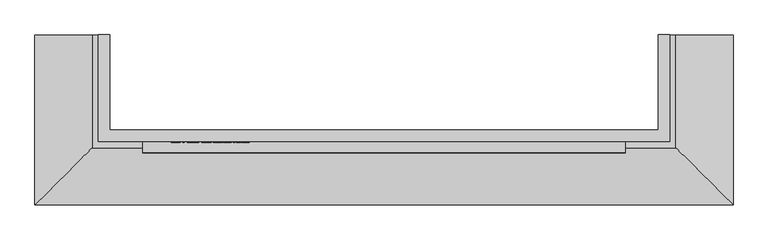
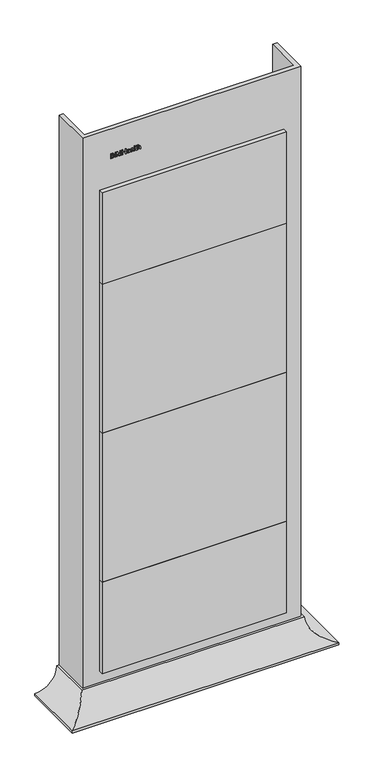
"""IFC4 building model written with IfcOpenShell, lengths in millimetres: furniture geometry, BIMHealth-Washstation-LOD2A-v2 : BIMHealth-Washstation-LOD2A-v1 2."""

from ifc_helpers import new_model, si_unit, frame, origin, origin_with_axes, place, context, project, spatial, polyline, circle_curve, ellipse_curve, outline, extrude, source, transform, mapped, element, save
from ifc_brep_helpers import plane_surface, revolved_surface, advanced_brep


def furniture_eb258ce7(model_context):
    return source(origin(), model_context, "Body", "SolidModel", [
        advanced_brep(
        [(-900.0, 0.0, 100.0), (-900.0, 0.0, 0.0), (-1000.0, 0.0, 0.0), (-1000.0, 0.0, 10.0), (-910.0, 0.0, 100.0), (-900.0, -168.0, 100.0), (-900.0, -168.0, 0.0), (0.0, -168.0, 0.0), (0.0, 0.0, 0.0), (100.0, 0.0, 0.0), (100.0, -268.0, 0.0), (-1000.0, -268.0, 0.0), (-1000.0, -268.0, 10.0), (-910.0, -178.0, 100.0), (10.0, -178.0, 100.0), (10.0, 0.0, 100.0), (0.0, 0.0, 100.0), (0.0, -168.0, 100.0), (100.0, -268.0, 10.0), (100.0, 0.0, 10.0)],
        [
            (0, 1),
            (1, 2),
            (2, 3),
            (3, 4, circle_curve(frame((-1000.0, 0.0, 100.0), z_axis=(0.0, -1.0, 0.0), x_axis=(-1.0, 0.0, 0.0)), 90.0)),
            (4, 0),
            (0, 5),
            (5, 6),
            (6, 1),
            (6, 7),
            (7, 8),
            (8, 9),
            (9, 10),
            (10, 11),
            (11, 2),
            (11, 12),
            (12, 3),
            (12, 13, ellipse_curve(frame((-1000.0, -268.0, 100.0), z_axis=(0.7071067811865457, -0.7071067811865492, 0.0), x_axis=(-0.7071067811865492, -0.7071067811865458, 0.0)), 127.2792206, 90.0)),
            (13, 4),
            (13, 14),
            (14, 15),
            (15, 16),
            (16, 17),
            (17, 5),
            (17, 7),
            (10, 18),
            (18, 12),
            (18, 14, ellipse_curve(frame((100.0, -268.0, 100.0), z_axis=(0.7071067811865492, 0.7071067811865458, 0.0), x_axis=(0.7071067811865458, -0.7071067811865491, 0.0)), 127.2792206, 90.0)),
            (15, 19, circle_curve(frame((100.0, 0.0, 100.0), z_axis=(0.0, -1.0, 0.0), x_axis=(1.0, 0.0, 0.0)), 90.0)),
            (19, 9),
            (8, 16),
            (19, 18),
        ],
        [
            plane_surface(frame((-900.0, 0.0, 0.0), z_axis=(0.0, 1.0, 0.0), x_axis=(0.0, 0.0, 1.0))),
            plane_surface(frame((-900.0, 0.0, 100.0), z_axis=(1.0, 0.0, 0.0), x_axis=(0.0, -1.0, 0.0))),
            plane_surface(frame((-900.0, 0.0, 0.0), z_axis=(0.0, 0.0, -1.0), x_axis=(0.0, -1.0, 0.0))),
            plane_surface(frame((-1000.0, 0.0, 0.0), z_axis=(-1.0, 0.0, 0.0), x_axis=(0.0, -1.0, 0.0))),
            revolved_surface(polyline([(-1090.0, -357.9999999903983, 100.0), (-1090.0, 0.0, 100.0)]), (-1000.0, 0.0, 100.0), (0.0, -1.0, 0.0)),
            plane_surface(frame((-910.0, 0.0, 100.0), z_axis=(0.0, 0.0, 1.0), x_axis=(0.0, -1.0, 0.0))),
            plane_surface(frame((-900.0, -168.0, 100.0), z_axis=(0.0, 1.0, 0.0), x_axis=(1.0, 0.0, 0.0))),
            plane_surface(frame((-1000.0, -268.0, 0.0), z_axis=(0.0, -1.0, 0.0), x_axis=(1.0, 0.0, 0.0))),
            revolved_surface(polyline([(189.99999999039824, -358.0, 100.0), (-1089.9999999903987, -358.0, 100.0)]), (-900.0, -268.0, 100.0), (1.0, 0.0, 0.0)),
            plane_surface(frame((0.0, 0.0, 0.0), z_axis=(0.0, 1.0, 0.0), x_axis=(0.0, 0.0, 1.0))),
            plane_surface(frame((0.0, -168.0, 100.0), z_axis=(-1.0, 0.0, 0.0), x_axis=(0.0, 1.0, 0.0))),
            plane_surface(frame((100.0, -268.0, 0.0), z_axis=(1.0, 0.0, 0.0), x_axis=(0.0, 1.0, 0.0))),
            revolved_surface(polyline([(190.0, 0.0, 100.0), (190.0, -357.9999999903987, 100.0)]), (100.0, -168.0, 100.0), (0.0, 1.0, 0.0)),
        ],
        [
            (0, [[1, 2, 3, 4, 5]]),
            (1, [[-1, 6, 7, 8]]),
            (2, [[-2, -8, 9, 10, 11, 12, 13, 14]]),
            (3, [[-3, -14, 15, 16]]),
            (4, [[-4, -16, 17, 18]]),
            (5, [[-5, -18, 19, 20, 21, 22, 23, -6]]),
            (6, [[-7, -23, 24, -9]]),
            (7, [[-15, -13, 25, 26]]),
            (8, [[-17, -26, 27, -19]]),
            (9, [[-21, 28, 29, -11, 30]]),
            (10, [[-24, -22, -30, -10]]),
            (11, [[-25, -12, -29, 31]]),
            (12, [[-27, -31, -28, -20]]),
        ],
    ),
        extrude(outline(polyline([(2373.0972535, -785.4733843), (2373.0972535, -778.0166535), (2373.4361958, -774.8604035), (2374.4361958, -772.7185766), (2376.3208112, -771.2834804), (2378.9674458, -770.7041535), (2382.0299458, -771.5527112), (2383.8664843, -773.978192), (2385.6092727, -771.9805958), (2387.9097535, -771.3195381), (2390.4289843, -772.1055958), (2392.2102343, -774.2786728), (2392.7895612, -777.9589612), (2392.7895612, -785.4733843), (2373.0972535, -785.4733843)]), holes=[polyline([(2384.7895612, -783.0118458), (2390.3280227, -783.0118458), (2390.3280227, -778.8579997), (2390.0708112, -775.6945381), (2389.121292, -774.2762689), (2387.5155227, -773.7810766), (2385.9121574, -774.3123266), (2385.0010997, -775.8916535), (2384.7895612, -778.5166535), (2384.7895612, -783.0118458)]), polyline([(2375.558792, -783.0118458), (2382.3280227, -783.0118458), (2382.3280227, -778.2041535), (2381.9986958, -775.1632881), (2380.8568689, -773.6368458), (2378.9434074, -773.165692), (2376.1910035, -774.5911728), (2375.6549458, -776.1368458), (2375.558792, -777.9637689), (2375.558792, -783.0118458)])]), frame((0.0, -170.0, 0.0), z_axis=(0.0, 1.0, 0.0), x_axis=(0.0, 0.0, 1.0)), (0.0, 0.0, 1.0), 2.0),
        extrude(outline(polyline([(-764.5503074, -170.0), (-767.0118458, -170.0), (-767.0118458, -168.0), (-764.5503074, -168.0), (-764.5503074, -170.0)])), frame((0.0, 0.0, 2373.0972535), z_axis=(0.0, 0.0, 1.0), x_axis=(1.0, 0.0, 0.0)), (0.0, 0.0, 1.0), 19.6923077),
        extrude(outline(polyline([(2373.0972535, -759.6272304), (2373.0972535, -757.165692), (2390.3280227, -757.165692), (2373.0972535, -752.2137689), (2373.0972535, -748.8820381), (2390.3280227, -743.9349228), (2373.0972535, -743.9349228), (2373.0972535, -741.4733843), (2392.7895612, -741.4733843), (2392.7895612, -745.7089612), (2379.1501381, -749.6704997), (2376.0107151, -750.5503074), (2378.9097535, -751.3676151), (2392.7895612, -755.4060766), (2392.7895612, -759.6272304), (2373.0972535, -759.6272304)])), frame((0.0, -170.0, 0.0), z_axis=(0.0, 1.0, 0.0), x_axis=(0.0, 0.0, 1.0)), (0.0, 0.0, 1.0), 2.0),
        extrude(outline(polyline([(2373.0972535, -737.165692), (2373.0972535, -734.7041535), (2382.3280227, -734.7041535), (2382.3280227, -724.2426151), (2373.0972535, -724.2426151), (2373.0972535, -721.7810766), (2392.7895612, -721.7810766), (2392.7895612, -724.2426151), (2384.7895612, -724.2426151), (2384.7895612, -734.7041535), (2392.7895612, -734.7041535), (2392.7895612, -737.165692), (2373.0972535, -737.165692)])), frame((0.0, -170.0, 0.0), z_axis=(0.0, 1.0, 0.0), x_axis=(0.0, 0.0, 1.0)), (0.0, 0.0, 1.0), 2.0),
        extrude(outline(polyline([(2377.4049458, -707.6560766), (2375.7655227, -709.2426151), (2375.2510997, -711.6560766), (2376.3616766, -714.8267497), (2379.558792, -716.2426151), (2380.2222535, -705.165692), (2385.8616766, -707.0334804), (2387.8664843, -711.8435766), (2385.8568689, -716.7954997), (2380.2078304, -718.7041535), (2374.7390804, -716.8147304), (2372.7895612, -711.7041535), (2373.9193689, -707.4998266), (2377.0972535, -705.2426151), (2377.4049458, -707.6560766)]), holes=[polyline([(2382.0203304, -716.2426151), (2384.4842727, -714.884442), (2385.4049458, -711.853192), (2384.2510997, -708.6128074), (2382.0203304, -707.6272304), (2382.0203304, -716.2426151)])]), frame((0.0, -170.0, 0.0), z_axis=(0.0, 1.0, 0.0), x_axis=(0.0, 0.0, 1.0)), (0.0, 0.0, 1.0), 2.0),
        extrude(outline(polyline([(2374.9434074, -693.4733843), (2373.0972535, -692.8579997), (2373.0972535, -690.3964612), (2375.1669651, -690.8868458), (2379.4434074, -691.0118458), (2382.5059074, -691.0118458), (2384.6597535, -691.1320381), (2386.3304266, -691.8868458), (2387.4289843, -693.571942), (2387.8664843, -696.5551151), (2387.371292, -699.8027112), (2385.9626381, -701.946942), (2383.558792, -703.0118458), (2383.2510997, -700.5503074), (2384.9313881, -699.3628074), (2385.4049458, -696.8724228), (2384.6934074, -694.1512689), (2382.3280227, -693.4878074), (2381.4818689, -697.7570381), (2381.1116766, -699.8868458), (2380.3039843, -701.6104035), (2378.8905227, -702.8483843), (2376.9434074, -703.3195381), (2373.9578304, -702.071942), (2372.7895612, -698.4974228), (2373.2751381, -695.8604035), (2374.9434074, -693.4733843)]), holes=[polyline([(2379.5179266, -693.4805958), (2377.2655227, -693.8772304), (2375.840042, -695.4829997), (2375.2510997, -697.9733843), (2378.7126381, -699.5623266), (2379.1116766, -697.4445381), (2379.5179266, -693.4805958)])]), frame((0.0, -170.0, 0.0), z_axis=(0.0, 1.0, 0.0), x_axis=(0.0, 0.0, 1.0)), (0.0, 0.0, 1.0), 2.0),
        extrude(outline(polyline([(-685.165692, -170.0), (-687.6272304, -170.0), (-687.6272304, -168.0), (-685.165692, -168.0), (-685.165692, -170.0)])), frame((0.0, 0.0, 2373.0972535), z_axis=(0.0, 0.0, 1.0), x_axis=(1.0, 0.0, 0.0)), (0.0, 0.0, 1.0), 19.6923077),
        extrude(outline(polyline([(2376.1429266, -677.4733843), (2385.0972535, -678.7041535), (2385.0972535, -676.2426151), (2387.558792, -676.2426151), (2387.558792, -678.7041535), (2392.5203304, -678.7041535), (2391.0732151, -681.165692), (2387.558792, -681.165692), (2387.558792, -683.0118458), (2385.0972535, -683.0118458), (2385.0972535, -681.165692), (2377.0635997, -681.165692), (2373.1982151, -679.8387689), (2372.7895612, -677.7762689), (2373.0251381, -675.9349228), (2376.1429266, -677.4733843)])), frame((0.0, -170.0, 0.0), z_axis=(0.0, 1.0, 0.0), x_axis=(0.0, 0.0, 1.0)), (0.0, 0.0, 1.0), 2.0),
        extrude(outline(polyline([(2373.0972535, -673.7810766), (2373.0972535, -671.3195381), (2380.7799458, -671.3195381), (2383.371292, -670.9180958), (2384.8568689, -669.571942), (2385.4049458, -667.5551151), (2384.5924458, -665.3339612), (2381.996292, -664.5503074), (2373.0972535, -664.5503074), (2373.0972535, -662.0887689), (2382.2510997, -662.0887689), (2385.4866766, -662.5935766), (2387.2342727, -664.2714612), (2387.8664843, -667.0358843), (2385.5491766, -671.3195381), (2392.7895612, -671.3195381), (2392.7895612, -673.7810766), (2373.0972535, -673.7810766)])), frame((0.0, -170.0, 0.0), z_axis=(0.0, 1.0, 0.0), x_axis=(0.0, 0.0, 1.0)), (0.0, 0.0, 1.0), 2.0),
        extrude(outline(polyline([(-70.0, -168.0), (-70.0, -186.0), (-830.0, -186.0), (-830.0, -168.0), (-70.0, -168.0)])), frame((0.0, 0.0, 1850.0), z_axis=(0.0, 0.0, 1.0), x_axis=(1.0, 0.0, 0.0)), (0.0, 0.0, 1.0), 400.0),
        extrude(outline(polyline([(-70.0, -168.0), (-70.0, -186.0), (-830.0, -186.0), (-830.0, -168.0), (-70.0, -168.0)])), frame((0.0, 0.0, 1200.0), z_axis=(0.0, 0.0, 1.0), x_axis=(1.0, 0.0, 0.0)), (0.0, 0.0, 1.0), 650.0),
        extrude(outline(polyline([(-70.0, -168.0), (-70.0, -186.0), (-830.0, -186.0), (-830.0, -168.0), (-70.0, -168.0)])), frame((0.0, 0.0, 550.0), z_axis=(0.0, 0.0, 1.0), x_axis=(1.0, 0.0, 0.0)), (0.0, 0.0, 1.0), 650.0),
        extrude(outline(polyline([(-70.0, -168.0), (-70.0, -186.0), (-830.0, -186.0), (-830.0, -168.0), (-70.0, -168.0)])), frame((0.0, 0.0, 150.0), z_axis=(0.0, 0.0, 1.0), x_axis=(1.0, 0.0, 0.0)), (0.0, 0.0, 1.0), 400.0),
        extrude(outline(polyline([(-900.0, -168.0), (-900.0, 0.0), (-882.0, 0.0), (-882.0, -150.0), (-18.0, -150.0), (-18.0, 0.0), (0.0, 0.0), (0.0, -168.0), (-900.0, -168.0)])), origin_with_axes(), (0.0, 0.0, 1.0), 2500.0),
    ])


if __name__ == "__main__":
    model = new_model("IFC4")
    model_context = context("Model", 3, world=origin())
    ifc_project = project(units=[si_unit("LENGTHUNIT", "METRE", prefix="MILLI")], contexts=[model_context])
    site = spatial("IfcSite", under=ifc_project)
    building = spatial("IfcBuilding", under=site)
    placement = place(None, origin())
    furniture_shape = furniture_eb258ce7(model_context)
    element("IfcFurniture", 1, ObjectType="BIMHealth-Washstation-LOD2A-v2 : BIMHealth-Washstation-LOD2A-v1 2", at=placement, inside=building, context=model_context, shape_type="MappedRepresentation", body=[
        mapped(furniture_shape, transform((0.0, 0.0, 0.0), x_axis=(1.0, 0.0, 0.0), y_axis=(0.0, 1.0, 0.0), z_axis=(0.0, 0.0, 1.0))),
    ])
    save(model, "model.ifc")
